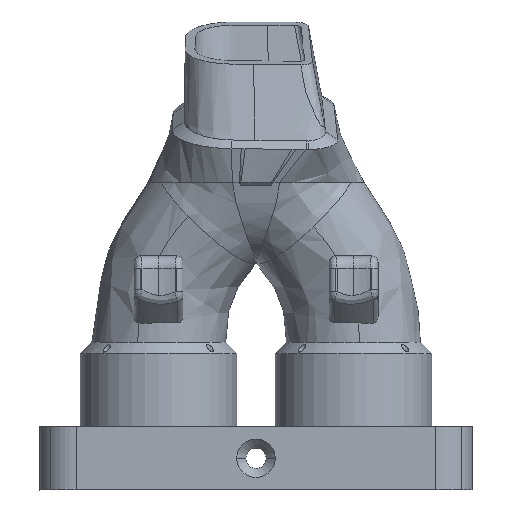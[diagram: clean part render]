
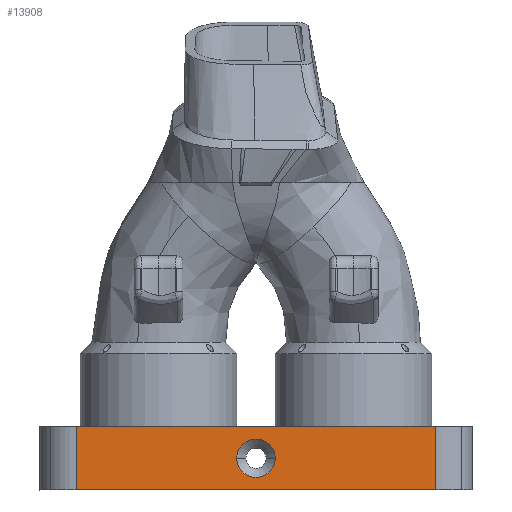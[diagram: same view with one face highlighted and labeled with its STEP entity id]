
A CAD part, front view. The second image highlights one B-rep face of the part: STEP entity #13908.
In plain terms, the highlighted planar face has unit normal (0, -1, 0).
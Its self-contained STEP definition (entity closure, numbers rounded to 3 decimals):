
#130 = EDGE_CURVE ( 'NONE', #13700, #5079, #23617, .T. ) ;
#281 = VERTEX_POINT ( 'NONE', #26618 ) ;
#815 = PLANE ( 'NONE',  #27034 ) ;
#1101 = ORIENTED_EDGE ( 'NONE', *, *, #6139, .F. ) ;
#1304 = VECTOR ( 'NONE', #9297, 1000. ) ;
#1515 = AXIS2_PLACEMENT_3D ( 'NONE', #27672, #23239, #3608 ) ;
#1579 = CARTESIAN_POINT ( 'NONE',  ( 16.127, 0.54, -55.686 ) ) ;
#2066 = CARTESIAN_POINT ( 'NONE',  ( 20.966, 0.54, -55.686 ) ) ;
#2790 = CIRCLE ( 'NONE', #17893, 3.15 ) ;
#2999 = DIRECTION ( 'NONE',  ( 1., 0., 0. ) ) ;
#3608 = DIRECTION ( 'NONE',  ( 1., 0., 0. ) ) ;
#3979 = ORIENTED_EDGE ( 'NONE', *, *, #5049, .F. ) ;
#4366 = CARTESIAN_POINT ( 'NONE',  ( 29.483, 0.54, -45.294 ) ) ;
#4513 = EDGE_CURVE ( 'NONE', #5079, #28218, #27052, .T. ) ;
#4762 = ORIENTED_EDGE ( 'NONE', *, *, #130, .F. ) ;
#4832 = DIRECTION ( 'NONE',  ( 1., 0., 0. ) ) ;
#5003 = EDGE_LOOP ( 'NONE', ( #13684, #5620, #4762, #1101, #23218, #3979 ) ) ;
#5049 = EDGE_CURVE ( 'NONE', #21220, #5947, #26271, .T. ) ;
#5079 = VERTEX_POINT ( 'NONE', #20116 ) ;
#5620 = ORIENTED_EDGE ( 'NONE', *, *, #4513, .F. ) ;
#5947 = VERTEX_POINT ( 'NONE', #1579 ) ;
#6065 = CIRCLE ( 'NONE', #1515, 3.15 ) ;
#6139 = EDGE_CURVE ( 'NONE', #27950, #13700, #21630, .T. ) ;
#6591 = DIRECTION ( 'NONE',  ( 0., 0., 1. ) ) ;
#6970 = EDGE_LOOP ( 'NONE', ( #21123, #20581 ) ) ;
#6984 = FACE_OUTER_BOUND ( 'NONE', #5003, .T. ) ;
#8546 = FACE_BOUND ( 'NONE', #6970, .T. ) ;
#9267 = DIRECTION ( 'NONE',  ( 0., -1., 0. ) ) ;
#9272 = VECTOR ( 'NONE', #18030, 1000. ) ;
#9297 = DIRECTION ( 'NONE',  ( 1., 0., 0. ) ) ;
#10416 = DIRECTION ( 'NONE',  ( 0., 0., -1. ) ) ;
#10635 = VECTOR ( 'NONE', #6591, 1000. ) ;
#13449 = EDGE_CURVE ( 'NONE', #25516, #281, #2790, .T. ) ;
#13622 = CARTESIAN_POINT ( 'NONE',  ( -29.517, 0.54, -45.294 ) ) ;
#13684 = ORIENTED_EDGE ( 'NONE', *, *, #25942, .F. ) ;
#13700 = VERTEX_POINT ( 'NONE', #13622 ) ;
#13908 = ADVANCED_FACE ( 'NONE', ( #8546, #6984 ), #815, .T. ) ;
#14052 = CARTESIAN_POINT ( 'NONE',  ( 30.644, 0.54, -45.294 ) ) ;
#14106 = CARTESIAN_POINT ( 'NONE',  ( 29.483, 0.54, -55.686 ) ) ;
#16073 = VECTOR ( 'NONE', #17555, 1000. ) ;
#16718 = CARTESIAN_POINT ( 'NONE',  ( -29.517, 0.54, -55.687 ) ) ;
#17555 = DIRECTION ( 'NONE',  ( -1., 0., 0. ) ) ;
#17563 = VECTOR ( 'NONE', #10416, 1000. ) ;
#17893 = AXIS2_PLACEMENT_3D ( 'NONE', #18787, #19337, #27908 ) ;
#17915 = VECTOR ( 'NONE', #2999, 1000. ) ;
#18030 = DIRECTION ( 'NONE',  ( 1., 0., 0. ) ) ;
#18787 = CARTESIAN_POINT ( 'NONE',  ( -0.017, 0.54, -50.49 ) ) ;
#19326 = CARTESIAN_POINT ( 'NONE',  ( 4.17, 0.54, -45.294 ) ) ;
#19337 = DIRECTION ( 'NONE',  ( 0., -1., 0. ) ) ;
#19725 = LINE ( 'NONE', #26156, #17563 ) ;
#20116 = CARTESIAN_POINT ( 'NONE',  ( 16.126, 0.54, -45.294 ) ) ;
#20155 = CARTESIAN_POINT ( 'NONE',  ( -30.834, 0.539, -55.687 ) ) ;
#20439 = CARTESIAN_POINT ( 'NONE',  ( -35.517, 0.539, -55.687 ) ) ;
#20581 = ORIENTED_EDGE ( 'NONE', *, *, #13449, .F. ) ;
#21123 = ORIENTED_EDGE ( 'NONE', *, *, #25036, .F. ) ;
#21220 = VERTEX_POINT ( 'NONE', #14106 ) ;
#21630 = LINE ( 'NONE', #26203, #10635 ) ;
#22305 = LINE ( 'NONE', #20155, #9272 ) ;
#23218 = ORIENTED_EDGE ( 'NONE', *, *, #23320, .T. ) ;
#23239 = DIRECTION ( 'NONE',  ( 0., -1., 0. ) ) ;
#23320 = EDGE_CURVE ( 'NONE', #27950, #5947, #22305, .T. ) ;
#23617 = LINE ( 'NONE', #19326, #1304 ) ;
#25036 = EDGE_CURVE ( 'NONE', #281, #25516, #6065, .T. ) ;
#25332 = CARTESIAN_POINT ( 'NONE',  ( -3.167, 0.54, -50.49 ) ) ;
#25516 = VERTEX_POINT ( 'NONE', #25332 ) ;
#25942 = EDGE_CURVE ( 'NONE', #28218, #21220, #19725, .T. ) ;
#26156 = CARTESIAN_POINT ( 'NONE',  ( 29.483, 0.54, -55.686 ) ) ;
#26203 = CARTESIAN_POINT ( 'NONE',  ( -29.517, 0.54, -55.687 ) ) ;
#26271 = LINE ( 'NONE', #2066, #16073 ) ;
#26618 = CARTESIAN_POINT ( 'NONE',  ( 3.133, 0.54, -50.49 ) ) ;
#27034 = AXIS2_PLACEMENT_3D ( 'NONE', #20439, #9267, #4832 ) ;
#27052 = LINE ( 'NONE', #14052, #17915 ) ;
#27672 = CARTESIAN_POINT ( 'NONE',  ( -0.017, 0.54, -50.49 ) ) ;
#27908 = DIRECTION ( 'NONE',  ( 1., 0., 0. ) ) ;
#27950 = VERTEX_POINT ( 'NONE', #16718 ) ;
#28218 = VERTEX_POINT ( 'NONE', #4366 ) ;
